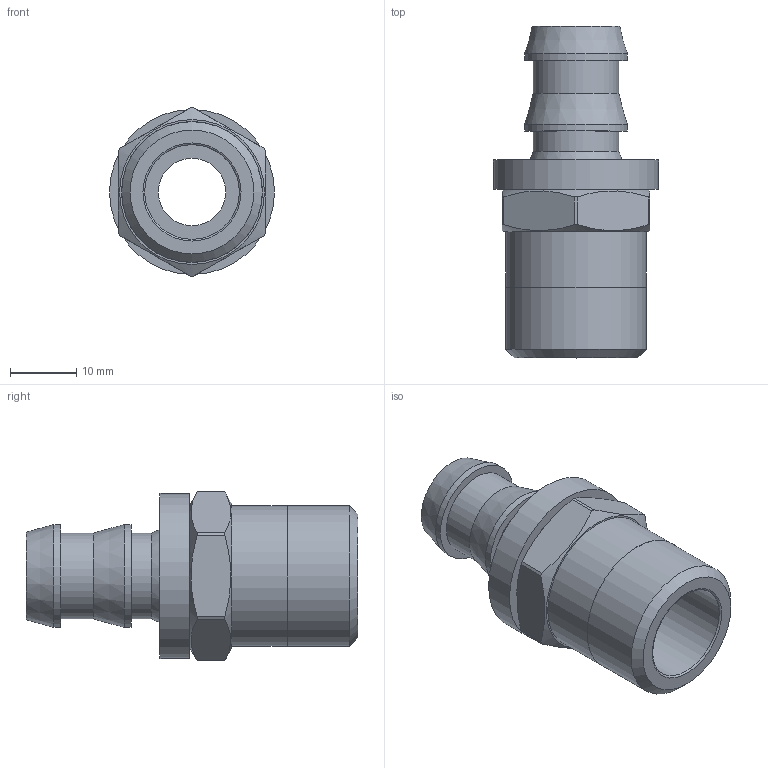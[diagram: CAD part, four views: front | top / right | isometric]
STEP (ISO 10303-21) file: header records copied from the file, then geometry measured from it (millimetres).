
FILE_DESCRIPTION(/* description */ (''),/* implementation_level */ '2;1');
FILE_NAME(/* name */ 'C:/Users/drich/Desktop/PLM-08-08 v1.step',/* time_stamp */ '2020-02-02T14:47:00-06:00',/* author */ (''),/* organization */ (''),/* preprocessor_version */ 'ST-DEVELOPER v18',/* originating_system */ 'Autodesk Translation Framework v8.12.0.6',/* authorisation */ '');
FILE_SCHEMA (('AUTOMOTIVE_DESIGN { 1 0 10303 214 3 1 1 }'));
Length unit declared in the file: inch
Products named in the file (3): PLM-08-08; 12 -08 THREAD; FW-10
Assembly tree (2 placements, depth 2):
  PLM-08-08
    12 -08 THREAD
    FW-10
Bounding box: 24.89 x 50.04 x 25.4 mm (x, y, z)
Volume: 8235 mm3; surface area: 6820.1 mm2
Topology: 3 solids, 3 shells, 47 faces, 124 edges, 90 vertices
Faces by surface type: cylinder 20, plane 19, cone 7, torus 1
Full cylindrical faces by diameter (mm): 10.16 x1, 10.312 x1, 12.954 x2, 13.894 x1, 14.275 x1, 14.859 x1, 15.494 x3, 21.209 x1, 21.26 x1, 22.352 x1, 24.892 x1
Entity records: 1635 total; most frequent: DIRECTION 295, CARTESIAN_POINT 290, ORIENTED_EDGE 248, AXIS2_PLACEMENT_3D 131, EDGE_CURVE 124, VERTEX_POINT 90, CIRCLE 79, EDGE_LOOP 60
